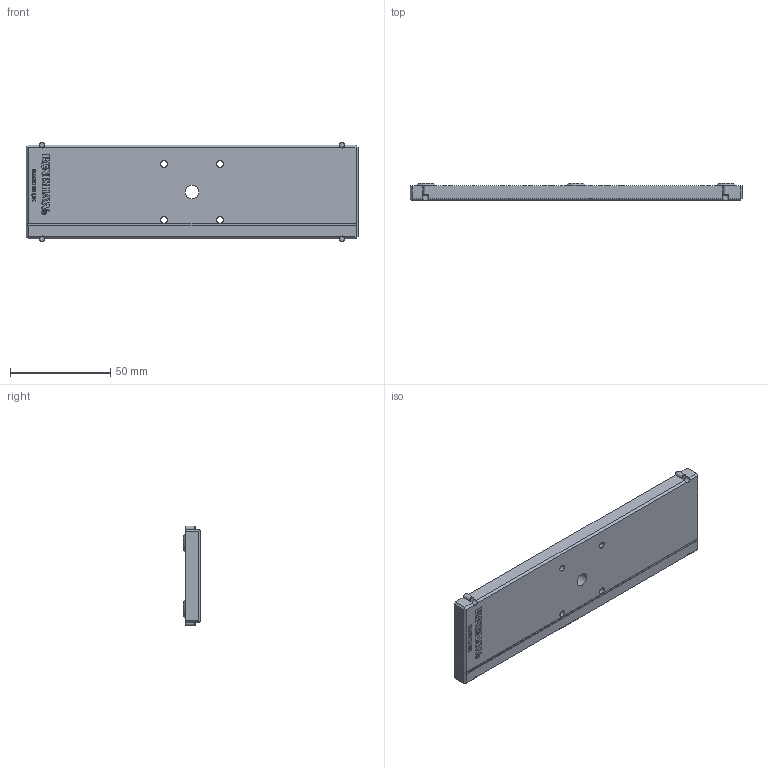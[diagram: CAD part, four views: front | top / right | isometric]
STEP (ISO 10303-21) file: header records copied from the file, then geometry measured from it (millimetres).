
FILE_DESCRIPTION(/* description */ (''),/* implementation_level */ '2;1');
FILE_NAME(/* name */ 'LA-8003-0256-A.stp',/* time_stamp */ '2015-03-31T11:13:59+01:00',/* author */ (''),/* organization */ (''),/* preprocessor_version */ 'ST-DEVELOPER v11',/* originating_system */ 'SIEMENS PLM Software NX 7.5',/* authorisation */ '');
FILE_SCHEMA (('AP203_CONFIGURATION_CONTROLLED_3D_DESIGN_OF_MECHANICAL_PARTS_AND_ASSEMBLIES_MIM_LF'));
Length unit declared in the file: millimetre
Products named in the file (1): da13E7542jvj
Bounding box: 166 x 8.7 x 50 mm (x, y, z)
Volume: 42541.3 mm3; surface area: 21900.5 mm2
Topology: 1 solids, 1 shells, 365 faces, 961 edges, 633 vertices
Faces by surface type: plane 240, extrusion 72, cylinder 39, cone 14
Full cylindrical faces by diameter (mm): 2.3 x1, 2.5 x1, 3.3 x4, 6 x4, 6.9 x1, 9.93 x3, 10.05 x3
Entity records: 11565 total; most frequent: CARTESIAN_POINT 2429, ORIENTED_EDGE 1846, DIRECTION 1545, EDGE_CURVE 923, VECTOR 747, LINE 675, VERTEX_POINT 626, EDGE_LOOP 441
